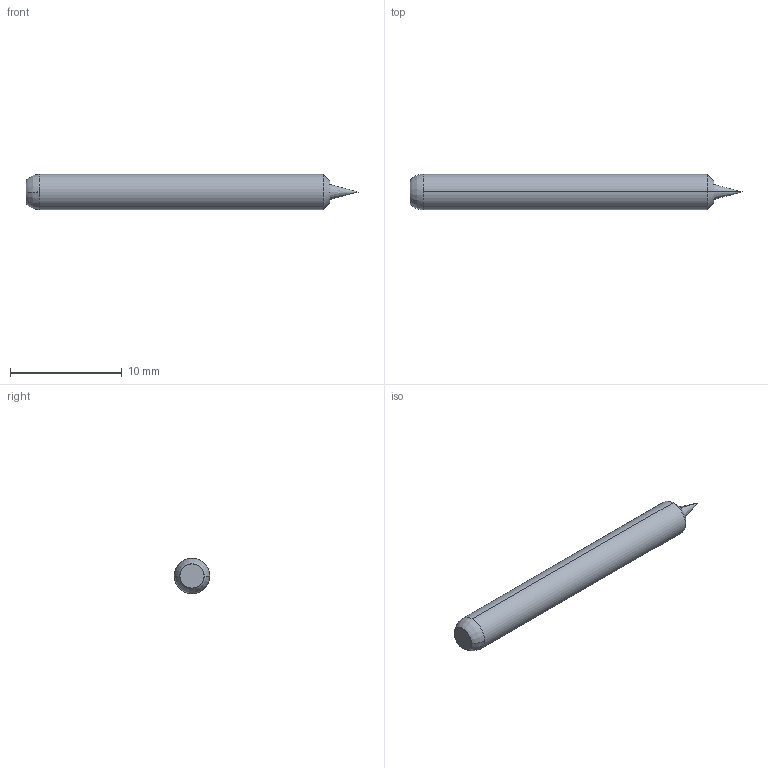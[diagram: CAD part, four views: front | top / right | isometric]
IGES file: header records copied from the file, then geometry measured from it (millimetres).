
Start section: SolidWorks IGES file using analytic representation for surfaces
Global section: file name: Z:\probe solid model mockups\Solidworks models\IGES Files\EPA-5 IGES files\EPA-5B Full.IGS; native system: SolidWorks 2006 by SolidWorks Corporation; preprocessor: SolidWorks 2006 by SolidWorks Corporation; author: tsakatani; date: 080103.110704; units: inch
Bounding box: 29.72 x 3.17 x 3.17 mm (x, y, z)
Surface area: 296.2 mm2 (no closed solid volume)
Topology: 0 solids, 0 shells, 11 faces, 76 edges, 74 vertices
Faces by surface type: revolution 10, bspline 1
